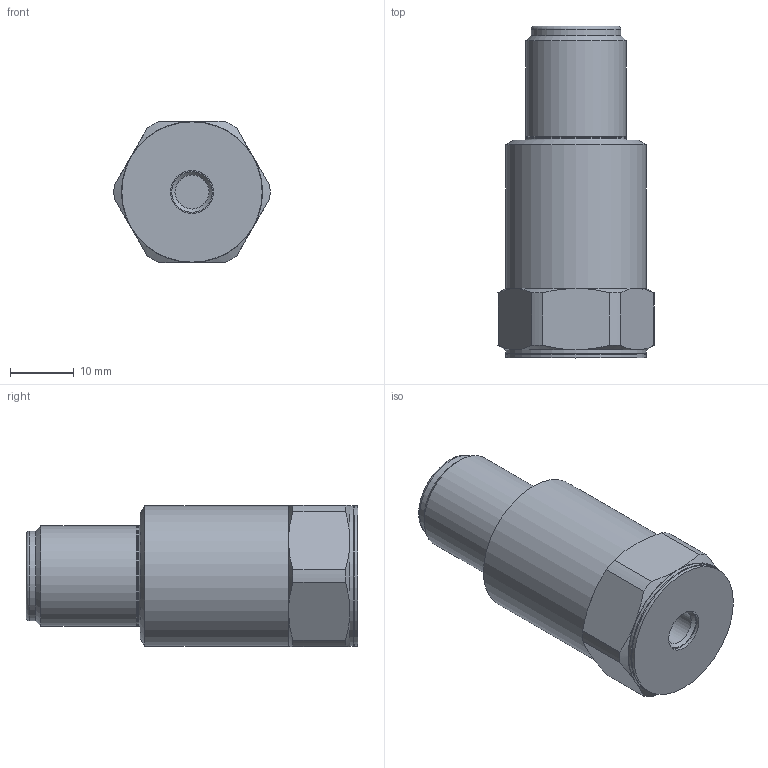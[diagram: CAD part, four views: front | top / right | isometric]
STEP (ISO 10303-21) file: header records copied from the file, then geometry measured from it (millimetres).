
FILE_DESCRIPTION(/* description */ (''),/* implementation_level */ '2;1');
FILE_NAME(/* name */ 'C:\Users\jfriend\Desktop\----Step files\Meredith Christman\622B01\622B01.stp',/* time_stamp */ '2019-12-11T10:35:37-05:00',/* author */ ('jfriend'),/* organization */ (''),/* preprocessor_version */ 'ST-DEVELOPER v17',/* originating_system */ 'Autodesk Inventor 2019',/* authorisation */ '');
FILE_SCHEMA (('AUTOMOTIVE_DESIGN { 1 0 10303 214 3 1 1 }'));
Length unit declared in the file: inch
Products named in the file (1): 622B01 
Bounding box: 24.58 x 52.25 x 22.23 mm (x, y, z)
Volume: 15253.6 mm3; surface area: 4891.1 mm2
Topology: 1 solids, 1 shells, 82 faces, 229 edges, 164 vertices
Faces by surface type: cylinder 26, plane 25, cone 24, torus 5, sphere 2
Full cylindrical faces by diameter (mm): 0.762 x1, 1.016 x2, 1.549 x2, 3.213 x2, 5.359 x1, 6.731 x1, 11.684 x1, 14.148 x1, 15.748 x2, 22.098 x3
Entity records: 2915 total; most frequent: CARTESIAN_POINT 632, DIRECTION 461, ORIENTED_EDGE 450, EDGE_CURVE 225, AXIS2_PLACEMENT_3D 195, VERTEX_POINT 164, CIRCLE 112, EDGE_LOOP 103
